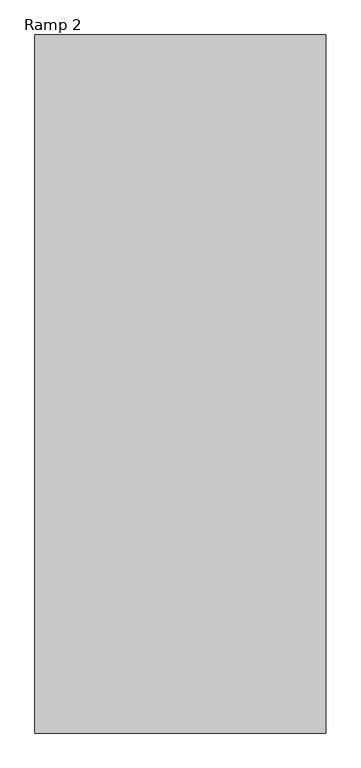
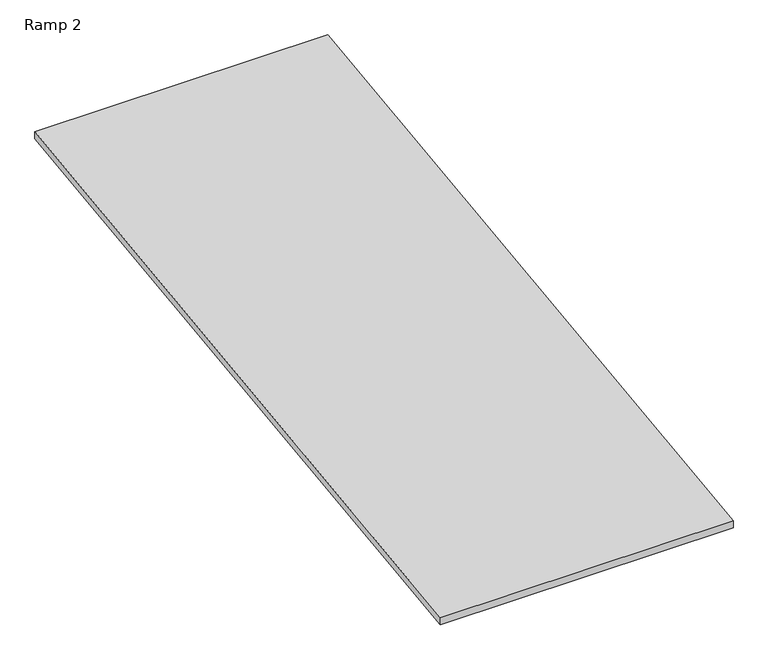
"""IFC4 building model written with IfcOpenShell, lengths in millimetres: ramp geometry, Ramp 2."""

import ifcopenshell
import ifcopenshell.guid

model = None  # the IFC model being written
_history = None  # IfcOwnerHistory: only IFC2X3 demands one
_inside = {}  # id of a spatial element -> (the spatial element, [elements in it])
_under = {}  # id of a project, library or spatial element -> (it, [spatial elements below it])
_declared = {}  # id of a project -> (the project, [libraries it declares])
_typed = {}  # id of a type object -> (the type object, [elements of that type])
_made_of = {}  # id of a material, layer set ... -> (it, [elements and type objects made of it])


def new_model(schema):
    """Start an empty IFC model of exactly this schema.

    Asked for "IFC4X3", IfcOpenShell would pick the latest addendum, in which some entities
    have other attributes; the version numbers below select the first issue.
    IFC2X3 requires an IfcOwnerHistory on every rooted entity: one is made here for all.
    """
    global model, _history
    if schema == "IFC4X3":
        model = ifcopenshell.file(schema_version=(4, 3, 0, 0))
    else:
        model = ifcopenshell.file(schema=schema)
    _inside.clear()
    _under.clear()
    _declared.clear()
    _typed.clear()
    _made_of.clear()
    _history = None
    if model.schema == "IFC2X3":
        org = make("IfcOrganization", Name="unknown")
        user = make(
            "IfcPersonAndOrganization",
            ThePerson=make("IfcPerson", FamilyName="unknown"),
            TheOrganization=org,
        )
        app = make(
            "IfcApplication",
            ApplicationDeveloper=org,
            Version="unknown",
            ApplicationFullName="unknown",
            ApplicationIdentifier="unknown",
        )
        _history = make(
            "IfcOwnerHistory",
            OwningUser=user,
            OwningApplication=app,
            ChangeAction="ADDED",
            CreationDate=0,
        )
    return model


def make(cls, **values):
    """One entity of the class cls with the attributes given. An attribute that is None is left unset."""
    return model.create_entity(
        cls, **{name: value for name, value in values.items() if value is not None}
    )


def rooted(cls, **values):
    """An entity with a GlobalId (a new one), such as an element, a storey or a relation."""
    return make(cls, GlobalId=ifcopenshell.guid.new(), OwnerHistory=_history, **values)


def si_unit(unit_type, name, prefix=None):
    """IfcSIUnit, for example si_unit("LENGTHUNIT", "METRE", prefix="MILLI")."""
    return make("IfcSIUnit", UnitType=unit_type, Prefix=prefix, Name=name)


def assignment(units):
    """IfcUnitAssignment: the units of a project."""
    return None if units is None else make("IfcUnitAssignment", Units=units)


def point(xyz):
    """IfcCartesianPoint."""
    return None if xyz is None else make("IfcCartesianPoint", Coordinates=xyz)


def direction(xyz):
    """IfcDirection."""
    return None if xyz is None else make("IfcDirection", DirectionRatios=xyz)


def frame(location, z_axis=None, x_axis=None):
    """IfcAxis2Placement3D, a coordinate frame: its origin and axes. An axis left out is left unset."""
    return make(
        "IfcAxis2Placement3D",
        Location=point(location),
        Axis=direction(z_axis),
        RefDirection=direction(x_axis),
    )


def origin():
    """The frame at (0, 0, 0) with its axes left unset."""
    return frame((0.0, 0.0, 0.0))


def place(relative_to, where):
    """IfcLocalPlacement: puts the frame where relative to a parent placement (None: the world)."""
    return make(
        "IfcLocalPlacement", PlacementRelTo=relative_to, RelativePlacement=where
    )


def context(
    kind, dimensions, precision=None, world=None, true_north=None, identifier=None
):
    """IfcGeometricRepresentationContext, for example the 3D "Model" context."""
    return make(
        "IfcGeometricRepresentationContext",
        ContextIdentifier=identifier,
        ContextType=kind,
        CoordinateSpaceDimension=dimensions,
        Precision=precision,
        WorldCoordinateSystem=world,
        TrueNorth=true_north,
    )


def project(units=None, contexts=None):
    """IfcProject with its units and contexts."""
    return rooted(
        "IfcProject",
        Name="project",
        RepresentationContexts=contexts,
        UnitsInContext=assignment(units),
    )


def spatial(cls, under=None, at=None, **own):
    """A site, building, storey or space (cls), placed at a placement, below another one or the project."""
    s = rooted(cls, ObjectPlacement=at, **own)
    if under is not None:
        _under.setdefault(under.id(), (under, []))[1].append(s)
    return s


def polyline(points):
    """IfcPolyline through the points."""
    return make("IfcPolyline", Points=[point(p) for p in points])


def outline(outer, holes=None, kind="AREA"):
    """IfcArbitraryClosedProfileDef: a profile drawn as a closed curve; with holes, ...WithVoids."""
    if holes is None:
        return make("IfcArbitraryClosedProfileDef", ProfileType=kind, OuterCurve=outer)
    return make(
        "IfcArbitraryProfileDefWithVoids",
        ProfileType=kind,
        OuterCurve=outer,
        InnerCurves=holes,
    )


def extrude(swept, where, along, depth):
    """IfcExtrudedAreaSolid: the profile swept, set in the frame where, extruded along a direction by depth."""
    return make(
        "IfcExtrudedAreaSolid",
        SweptArea=swept,
        Position=where,
        ExtrudedDirection=direction(along),
        Depth=depth,
    )


def shape(context_of_items, identifier, shape_type, items):
    """IfcShapeRepresentation: the items that make up one representation, for example the "Body"."""
    return make(
        "IfcShapeRepresentation",
        ContextOfItems=context_of_items,
        RepresentationIdentifier=identifier,
        RepresentationType=shape_type,
        Items=items,
    )


def source(mapping_origin, context_of_items, identifier, shape_type, items):
    """IfcRepresentationMap: a shape defined once, which mapped items show again and again."""
    return make(
        "IfcRepresentationMap",
        MappingOrigin=mapping_origin,
        MappedRepresentation=shape(context_of_items, identifier, shape_type, items),
    )


def transform(
    local_origin,
    x_axis=None,
    y_axis=None,
    z_axis=None,
    scale=None,
    scale2=None,
    scale3=None,
    uniform=True,
):
    """IfcCartesianTransformationOperator3D, or its non-uniform kind. x_axis, y_axis, z_axis: its Axis1, 2, 3."""
    if uniform:
        return make(
            "IfcCartesianTransformationOperator3D",
            Axis1=direction(x_axis),
            Axis2=direction(y_axis),
            LocalOrigin=point(local_origin),
            Scale=scale,
            Axis3=direction(z_axis),
        )
    return make(
        "IfcCartesianTransformationOperator3DnonUniform",
        Axis1=direction(x_axis),
        Axis2=direction(y_axis),
        LocalOrigin=point(local_origin),
        Scale=scale,
        Axis3=direction(z_axis),
        Scale2=scale2,
        Scale3=scale3,
    )


def mapped(mapping_source, mapping_target):
    """IfcMappedItem: shows the shape of a source again, moved by a transform."""
    return make(
        "IfcMappedItem", MappingSource=mapping_source, MappingTarget=mapping_target
    )


def made_of(thing, what):
    """Note that an element or type object is made of a material, layer set ...; save() writes the relation."""
    if what is not None:
        _made_of.setdefault(what.id(), (what, []))[1].append(thing)
    return thing


def element(
    cls,
    number,
    at=None,
    inside=None,
    cuts=None,
    type_object=None,
    material=None,
    context=None,
    identifier="Body",
    shape_type=None,
    held_by="IfcProductDefinitionShape",
    body=None,
    shapes=None,
    **own,
):
    """One element of the class cls, such as IfcWall. Its Tag is "e" and its number.

    at: its placement. inside: the storey or other place that contains it. cuts: it is an
    opening in that element (IfcRelVoidsElement). A single representation is given by context,
    identifier, shape_type and body (its items); several are given by shapes. held_by: the class
    of the entity that holds the representations. save() writes the other relations.
    """
    e = rooted(cls, Tag="e%d" % number, ObjectPlacement=at, **own)
    if body is not None:
        shapes = [shape(context, identifier, shape_type, body)]
    if shapes is not None:
        e.Representation = make(held_by, Representations=shapes)
    if inside is not None:
        _inside.setdefault(inside.id(), (inside, []))[1].append(e)
    if cuts is not None:
        rooted(
            "IfcRelVoidsElement", RelatingBuildingElement=cuts, RelatedOpeningElement=e
        )
    if type_object is not None:
        _typed.setdefault(type_object.id(), (type_object, []))[1].append(e)
    return made_of(e, material)


def aggregate(whole, parts):
    """IfcRelAggregates: a whole, such as a stair, and the parts it consists of."""
    return rooted("IfcRelAggregates", RelatingObject=whole, RelatedObjects=parts)


def save(model, path):
    """Write the relations noted so far, then the file.

    IfcRelAggregates (storeys below a building ...), IfcRelContainedInSpatialStructure (elements
    in a storey), IfcRelDefinesByType, IfcRelAssociatesMaterial and IfcRelDeclares: one each for
    every whole, place, type object, material and project.
    """
    for whole, parts in _under.values():
        aggregate(whole, parts)
    for where, things in _inside.values():
        rooted(
            "IfcRelContainedInSpatialStructure",
            RelatedElements=things,
            RelatingStructure=where,
        )
    for kind, things in _typed.values():
        rooted("IfcRelDefinesByType", RelatedObjects=things, RelatingType=kind)
    for what, things in _made_of.values():
        rooted("IfcRelAssociatesMaterial", RelatedObjects=things, RelatingMaterial=what)
    for by, libraries in _declared.values():
        rooted("IfcRelDeclares", RelatingContext=by, RelatedDefinitions=libraries)
    model.write(path)


def ramp_2_cc1999da(model_context):
    return source(origin(), model_context, "Body", "SweptSolid", [
        extrude(outline(polyline([(-10044.7467479, -914.4), (-2729.5467479, 0.0), (-2729.5467479, -76.7930051), (-10044.7467479, -991.1930051), (-10044.7467479, -914.4)])), frame((-3166.5256242, 0.0, 0.0), z_axis=(1.0, 0.0, 0.0), x_axis=(0.0, 1.0, 0.0)), (0.0, 0.0, 1.0), 3048.0),
    ])


if __name__ == "__main__":
    model = new_model("IFC4")
    model_context = context("Model", 3, world=origin())
    ifc_project = project(units=[si_unit("LENGTHUNIT", "METRE", prefix="MILLI")], contexts=[model_context])
    site = spatial("IfcSite", under=ifc_project)
    building = spatial("IfcBuilding", under=site)
    placement = place(None, origin())
    ramp_2_shape = ramp_2_cc1999da(model_context)
    element("IfcRamp", 1, ObjectType="Ramp 2", at=placement, inside=building, context=model_context, shape_type="MappedRepresentation", body=[
        mapped(ramp_2_shape, transform((0.0, 0.0, 0.0), x_axis=(1.0, 0.0, 0.0), y_axis=(0.0, 1.0, 0.0), z_axis=(0.0, 0.0, 1.0))),
    ])
    save(model, "model.ifc")
